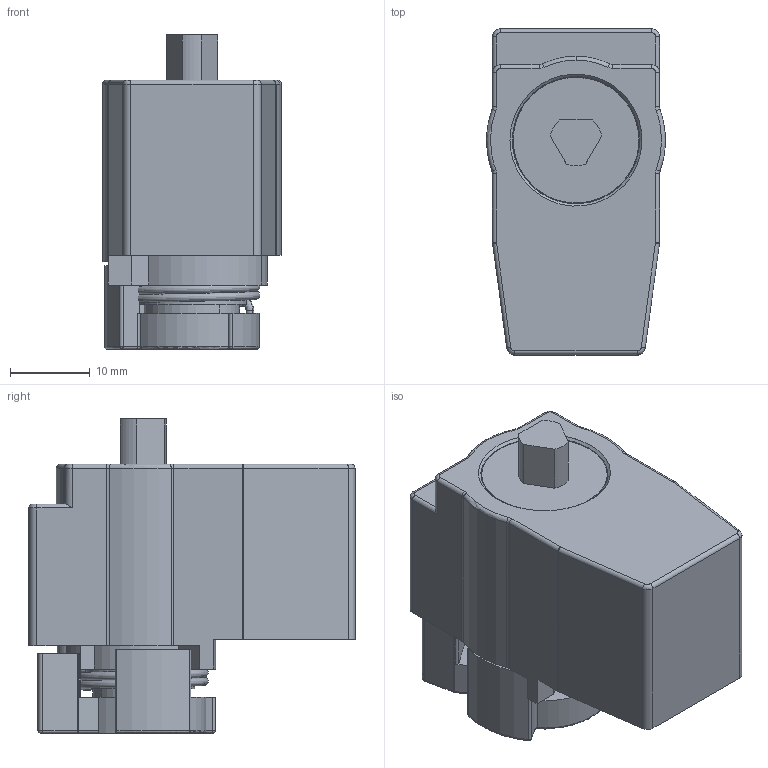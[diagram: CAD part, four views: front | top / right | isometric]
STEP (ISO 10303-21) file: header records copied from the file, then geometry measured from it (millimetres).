
FILE_DESCRIPTION(('STEP AP242'),'1');
FILE_NAME('07950.stp','2021-09-27T19:15:24',('TraceParts'),('TraceParts S.A.'),'Spatial InterOp 3D',' ',' ');
FILE_SCHEMA(('AP242_MANAGED_MODEL_BASED_3D_ENGINEERING_MIM_LF {1 0 10303 442 1 1 4}'));
Length unit declared in the file: millimetre
Products named in the file (1): 07950_1
Bounding box: 22.44 x 41 x 39.5 mm (x, y, z)
Volume: 17653.1 mm3; surface area: 11640.3 mm2
Topology: 5 solids, 5 shells, 295 faces, 735 edges, 470 vertices
Faces by surface type: cylinder 118, plane 116, torus 21, cone 18, bspline 17, sphere 5
Entity records: 14500 total; most frequent: CARTESIAN_POINT 5402, DIRECTION 1532, ORIENTED_EDGE 1470, EDGE_CURVE 735, AXIS2_PLACEMENT_3D 577, VERTEX_POINT 470, LINE 378, VECTOR 378
